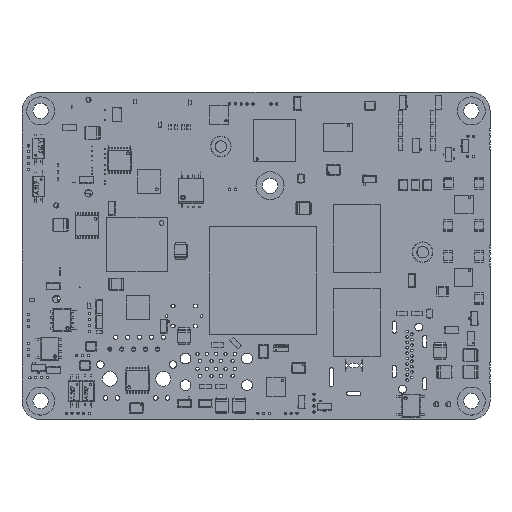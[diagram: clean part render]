
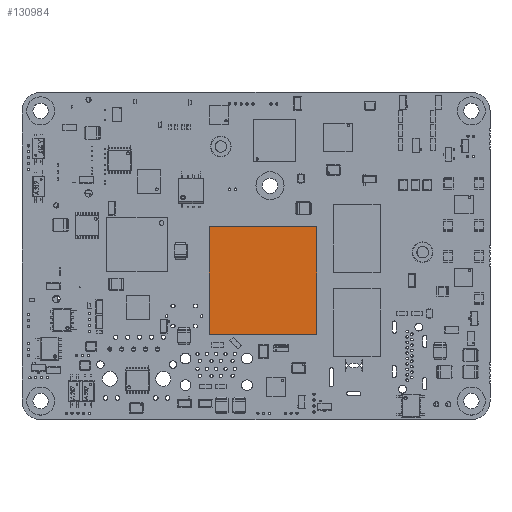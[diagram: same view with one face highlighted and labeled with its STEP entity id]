
A CAD part, top view. The second image highlights one B-rep face of the part: STEP entity #130984.
In plain terms, the highlighted planar face has unit normal (0, 0, 1).
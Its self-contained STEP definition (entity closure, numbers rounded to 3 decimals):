
#130853=DIRECTION('',(0.,-1.,0.));
#130854=VECTOR('',#130853,23.);
#130855=CARTESIAN_POINT('',(40.025,41.25,3.01));
#130856=LINE('',#130855,#130854);
#130857=DIRECTION('',(-1.,0.,0.));
#130858=VECTOR('',#130857,23.);
#130859=CARTESIAN_POINT('',(63.025,41.25,3.01));
#130860=LINE('',#130859,#130858);
#130861=DIRECTION('',(0.,1.,0.));
#130862=VECTOR('',#130861,23.);
#130863=CARTESIAN_POINT('',(63.025,18.25,3.01));
#130864=LINE('',#130863,#130862);
#130865=DIRECTION('',(1.,0.,0.));
#130866=VECTOR('',#130865,23.);
#130867=CARTESIAN_POINT('',(40.025,18.25,3.01));
#130868=LINE('',#130867,#130866);
#130869=CARTESIAN_POINT('',(40.025,41.25,3.01));
#130871=VERTEX_POINT('',#130869);
#130873=CARTESIAN_POINT('',(40.025,18.25,3.01));
#130874=VERTEX_POINT('',#130873);
#130877=CARTESIAN_POINT('',(63.025,18.25,3.01));
#130878=VERTEX_POINT('',#130877);
#130881=CARTESIAN_POINT('',(63.025,41.25,3.01));
#130882=VERTEX_POINT('',#130881);
#130973=CARTESIAN_POINT('',(40.025,41.25,3.01));
#130974=DIRECTION('',(0.,0.,-1.));
#130975=DIRECTION('',(-1.,0.,0.));
#130976=AXIS2_PLACEMENT_3D('',#130973,#130974,#130975);
#130977=PLANE('',#130976);
#130978=ORIENTED_EDGE('',*,*,#130892,.F.);
#130979=ORIENTED_EDGE('',*,*,#130915,.F.);
#130980=ORIENTED_EDGE('',*,*,#130937,.F.);
#130981=ORIENTED_EDGE('',*,*,#130958,.F.);
#130982=EDGE_LOOP('',(#130978,#130979,#130980,#130981));
#130983=FACE_OUTER_BOUND('',#130982,.F.);
#130892=EDGE_CURVE('',#130871,#130874,#130856,.T.);
#130915=EDGE_CURVE('',#130882,#130871,#130860,.T.);
#130937=EDGE_CURVE('',#130878,#130882,#130864,.T.);
#130958=EDGE_CURVE('',#130874,#130878,#130868,.T.);
#130984=ADVANCED_FACE('',(#130983),#130977,.F.);
